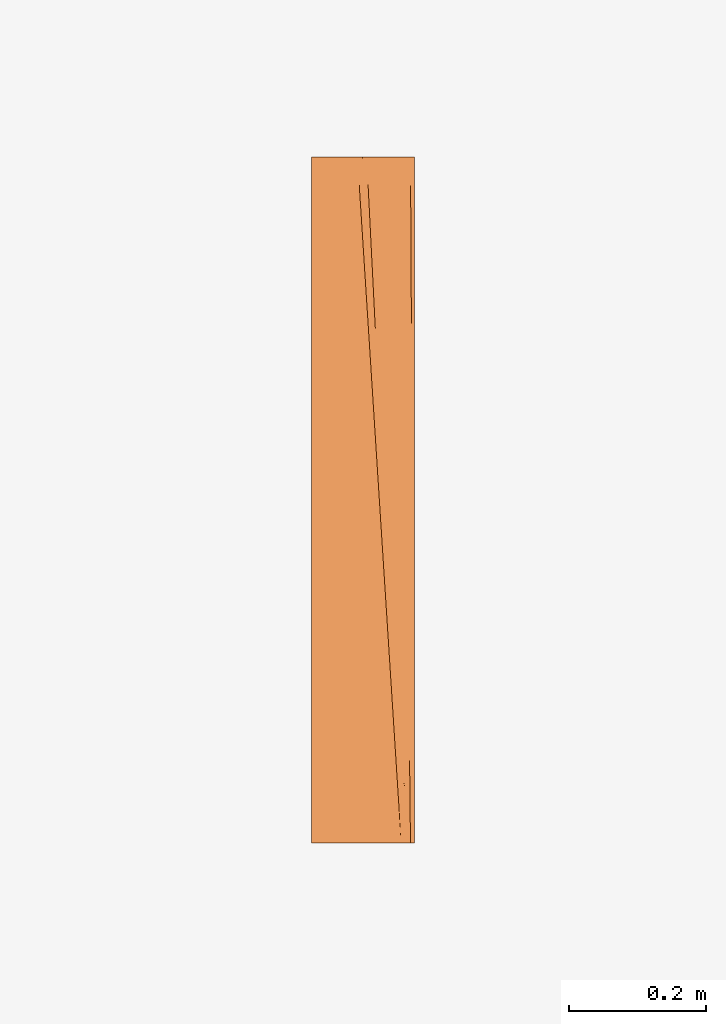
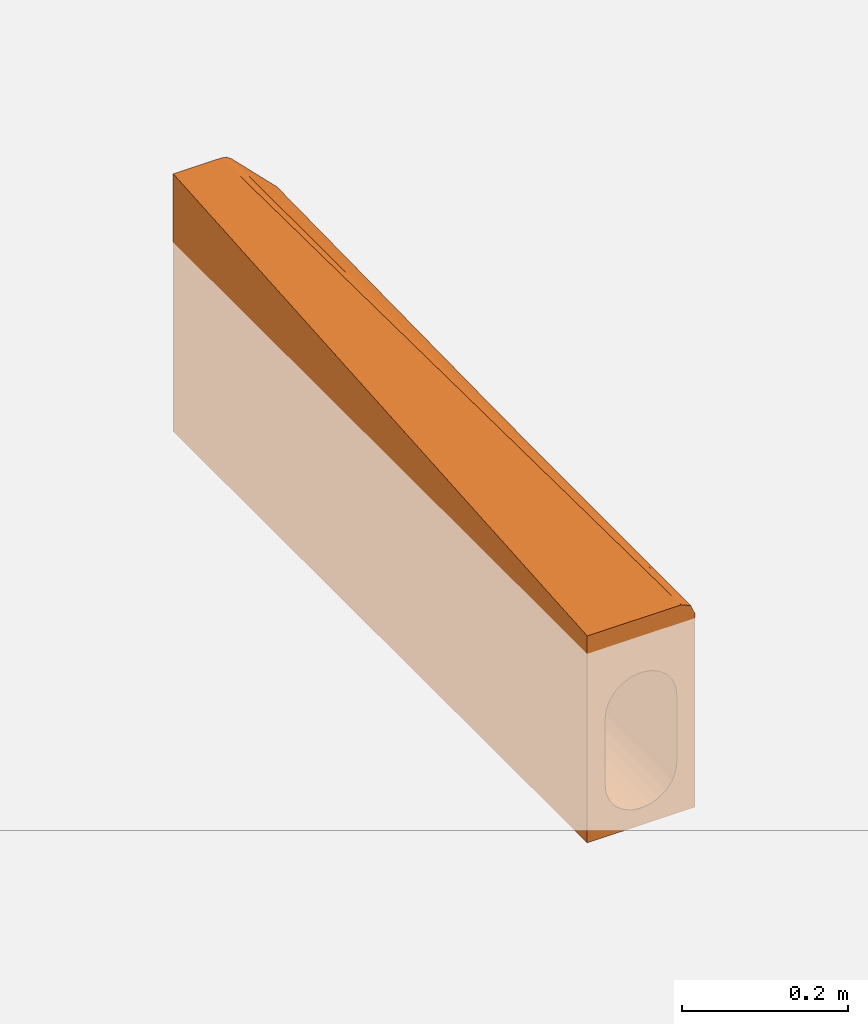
# One storey, part 2 of 2: 1 proxy.
"""IFC2X3 building model written with IfcOpenShell, lengths in millimetres."""

import ifcopenshell
import ifcopenshell.guid

model = None  # the IFC model being written
_history = None  # IfcOwnerHistory: only IFC2X3 demands one
_inside = {}  # id of a spatial element -> (the spatial element, [elements in it])
_under = {}  # id of a project, library or spatial element -> (it, [spatial elements below it])
_declared = {}  # id of a project -> (the project, [libraries it declares])
_typed = {}  # id of a type object -> (the type object, [elements of that type])
_made_of = {}  # id of a material, layer set ... -> (it, [elements and type objects made of it])


def new_model(schema):
    """Start an empty IFC model of exactly this schema.

    Asked for "IFC4X3", IfcOpenShell would pick the latest addendum, in which some entities
    have other attributes; the version numbers below select the first issue.
    IFC2X3 requires an IfcOwnerHistory on every rooted entity: one is made here for all.
    """
    global model, _history
    if schema == "IFC4X3":
        model = ifcopenshell.file(schema_version=(4, 3, 0, 0))
    else:
        model = ifcopenshell.file(schema=schema)
    _inside.clear()
    _under.clear()
    _declared.clear()
    _typed.clear()
    _made_of.clear()
    _history = None
    if model.schema == "IFC2X3":
        org = make("IfcOrganization", Name="unknown")
        user = make(
            "IfcPersonAndOrganization",
            ThePerson=make("IfcPerson", FamilyName="unknown"),
            TheOrganization=org,
        )
        app = make(
            "IfcApplication",
            ApplicationDeveloper=org,
            Version="unknown",
            ApplicationFullName="unknown",
            ApplicationIdentifier="unknown",
        )
        _history = make(
            "IfcOwnerHistory",
            OwningUser=user,
            OwningApplication=app,
            ChangeAction="ADDED",
            CreationDate=0,
        )
    return model


def make(cls, **values):
    """One entity of the class cls with the attributes given. An attribute that is None is left unset."""
    return model.create_entity(
        cls, **{name: value for name, value in values.items() if value is not None}
    )


def entity(cls, *values):
    """Any entity or typed value of the class cls, its attributes in the order of the schema. None: left unset."""
    e = model.create_entity(cls)
    for i, value in enumerate(values):
        if value is not None:
            e[i] = value
    return e


def rooted(cls, **values):
    """An entity with a GlobalId (a new one), such as an element, a storey or a relation."""
    return make(cls, GlobalId=ifcopenshell.guid.new(), OwnerHistory=_history, **values)


def si_unit(unit_type, name, prefix=None):
    """IfcSIUnit, for example si_unit("LENGTHUNIT", "METRE", prefix="MILLI")."""
    return make("IfcSIUnit", UnitType=unit_type, Prefix=prefix, Name=name)


def converted_unit(unit_type, name, factor, base, dimensions=None, offset=None):
    """IfcConversionBasedUnit, such as the inch: factor (a typed value) times the base unit."""
    return make(
        "IfcConversionBasedUnit"
        if offset is None
        else "IfcConversionBasedUnitWithOffset",
        ConversionOffset=offset,
        Dimensions=None
        if dimensions is None
        else entity("IfcDimensionalExponents", *dimensions),
        UnitType=unit_type,
        Name=name,
        ConversionFactor=make(
            "IfcMeasureWithUnit", ValueComponent=factor, UnitComponent=base
        ),
    )


def assignment(units):
    """IfcUnitAssignment: the units of a project."""
    return None if units is None else make("IfcUnitAssignment", Units=units)


def point(xyz):
    """IfcCartesianPoint."""
    return None if xyz is None else make("IfcCartesianPoint", Coordinates=xyz)


def direction(xyz):
    """IfcDirection."""
    return None if xyz is None else make("IfcDirection", DirectionRatios=xyz)


def frame(location, z_axis=None, x_axis=None):
    """IfcAxis2Placement3D, a coordinate frame: its origin and axes. An axis left out is left unset."""
    return make(
        "IfcAxis2Placement3D",
        Location=point(location),
        Axis=direction(z_axis),
        RefDirection=direction(x_axis),
    )


def origin():
    """The frame at (0, 0, 0) with its axes left unset."""
    return frame((0.0, 0.0, 0.0))


def place(relative_to, where):
    """IfcLocalPlacement: puts the frame where relative to a parent placement (None: the world)."""
    return make(
        "IfcLocalPlacement", PlacementRelTo=relative_to, RelativePlacement=where
    )


def context(
    kind, dimensions, precision=None, world=None, true_north=None, identifier=None
):
    """IfcGeometricRepresentationContext, for example the 3D "Model" context."""
    return make(
        "IfcGeometricRepresentationContext",
        ContextIdentifier=identifier,
        ContextType=kind,
        CoordinateSpaceDimension=dimensions,
        Precision=precision,
        WorldCoordinateSystem=world,
        TrueNorth=true_north,
    )


def subcontext(parent, identifier, kind, view, scale=None):
    """IfcGeometricRepresentationSubContext, for example "Body" below "Model"."""
    return make(
        "IfcGeometricRepresentationSubContext",
        ContextIdentifier=identifier,
        ContextType=kind,
        ParentContext=parent,
        TargetScale=scale,
        TargetView=view,
    )


def project(units=None, contexts=None):
    """IfcProject with its units and contexts."""
    return rooted(
        "IfcProject",
        Name="project",
        RepresentationContexts=contexts,
        UnitsInContext=assignment(units),
    )


def spatial(cls, under=None, at=None, **own):
    """A site, building, storey or space (cls), placed at a placement, below another one or the project."""
    s = rooted(cls, ObjectPlacement=at, **own)
    if under is not None:
        _under.setdefault(under.id(), (under, []))[1].append(s)
    return s


def faces_of(points, faces, orient=None, outer=None):
    """IfcFace entities. A face is a list of loops; a loop is a list of indices into points, from 0.

    orient and outer hold one flag for each loop. By default every Orientation is true, the
    first loop of a face is its IfcFaceOuterBound and the others are IfcFaceBound.
    """
    made = []
    for i, loops in enumerate(faces):
        bounds = []
        for j, loop in enumerate(loops):
            is_outer = j == 0 if outer is None else outer[i][j]
            bounds.append(
                make(
                    "IfcFaceOuterBound" if is_outer else "IfcFaceBound",
                    Bound=make("IfcPolyLoop", Polygon=[points[k] for k in loop]),
                    Orientation=True if orient is None else orient[i][j],
                )
            )
        made.append(make("IfcFace", Bounds=bounds))
    return made


def face_set(faces, orient=None, outer=None):
    """The faces of one IfcConnectedFaceSet. surface_model builds it on its shared points."""
    return ("IfcConnectedFaceSet", faces, orient, outer)


def surface_model(cls, points, shells):
    """IfcFaceBasedSurfaceModel or IfcShellBasedSurfaceModel (cls): surfaces that need not close."""
    shared = [point(p) for p in points]
    made = [make(c, CfsFaces=faces_of(shared, fs, o, b)) for c, fs, o, b in shells]
    if cls == "IfcFaceBasedSurfaceModel":
        return make(cls, FbsmFaces=made)
    return make(cls, SbsmBoundary=made)


def shape(context_of_items, identifier, shape_type, items):
    """IfcShapeRepresentation: the items that make up one representation, for example the "Body"."""
    return make(
        "IfcShapeRepresentation",
        ContextOfItems=context_of_items,
        RepresentationIdentifier=identifier,
        RepresentationType=shape_type,
        Items=items,
    )


def source(mapping_origin, context_of_items, identifier, shape_type, items):
    """IfcRepresentationMap: a shape defined once, which mapped items show again and again."""
    return make(
        "IfcRepresentationMap",
        MappingOrigin=mapping_origin,
        MappedRepresentation=shape(context_of_items, identifier, shape_type, items),
    )


def transform(
    local_origin,
    x_axis=None,
    y_axis=None,
    z_axis=None,
    scale=None,
    scale2=None,
    scale3=None,
    uniform=True,
):
    """IfcCartesianTransformationOperator3D, or its non-uniform kind. x_axis, y_axis, z_axis: its Axis1, 2, 3."""
    if uniform:
        return make(
            "IfcCartesianTransformationOperator3D",
            Axis1=direction(x_axis),
            Axis2=direction(y_axis),
            LocalOrigin=point(local_origin),
            Scale=scale,
            Axis3=direction(z_axis),
        )
    return make(
        "IfcCartesianTransformationOperator3DnonUniform",
        Axis1=direction(x_axis),
        Axis2=direction(y_axis),
        LocalOrigin=point(local_origin),
        Scale=scale,
        Axis3=direction(z_axis),
        Scale2=scale2,
        Scale3=scale3,
    )


def mapped(mapping_source, mapping_target):
    """IfcMappedItem: shows the shape of a source again, moved by a transform."""
    return make(
        "IfcMappedItem", MappingSource=mapping_source, MappingTarget=mapping_target
    )


def material(Name=None, Category=None):
    """IfcMaterial."""
    return make("IfcMaterial", Name=Name, Category=Category)


def made_of(thing, what):
    """Note that an element or type object is made of a material, layer set ...; save() writes the relation."""
    if what is not None:
        _made_of.setdefault(what.id(), (what, []))[1].append(thing)
    return thing


def element(
    cls,
    number,
    at=None,
    inside=None,
    cuts=None,
    type_object=None,
    material=None,
    context=None,
    identifier="Body",
    shape_type=None,
    held_by="IfcProductDefinitionShape",
    body=None,
    shapes=None,
    **own,
):
    """One element of the class cls, such as IfcWall. Its Tag is "e" and its number.

    at: its placement. inside: the storey or other place that contains it. cuts: it is an
    opening in that element (IfcRelVoidsElement). A single representation is given by context,
    identifier, shape_type and body (its items); several are given by shapes. held_by: the class
    of the entity that holds the representations. save() writes the other relations.
    """
    e = rooted(cls, Tag="e%d" % number, ObjectPlacement=at, **own)
    if body is not None:
        shapes = [shape(context, identifier, shape_type, body)]
    if shapes is not None:
        e.Representation = make(held_by, Representations=shapes)
    if inside is not None:
        _inside.setdefault(inside.id(), (inside, []))[1].append(e)
    if cuts is not None:
        rooted(
            "IfcRelVoidsElement", RelatingBuildingElement=cuts, RelatedOpeningElement=e
        )
    if type_object is not None:
        _typed.setdefault(type_object.id(), (type_object, []))[1].append(e)
    return made_of(e, material)


def aggregate(whole, parts):
    """IfcRelAggregates: a whole, such as a stair, and the parts it consists of."""
    return rooted("IfcRelAggregates", RelatingObject=whole, RelatedObjects=parts)


def save(model, path):
    """Write the relations noted so far, then the file.

    IfcRelAggregates (storeys below a building ...), IfcRelContainedInSpatialStructure (elements
    in a storey), IfcRelDefinesByType, IfcRelAssociatesMaterial and IfcRelDeclares: one each for
    every whole, place, type object, material and project.
    """
    for whole, parts in _under.values():
        aggregate(whole, parts)
    for where, things in _inside.values():
        rooted(
            "IfcRelContainedInSpatialStructure",
            RelatedElements=things,
            RelatingStructure=where,
        )
    for kind, things in _typed.values():
        rooted("IfcRelDefinesByType", RelatedObjects=things, RelatingType=kind)
    for what, things in _made_of.values():
        rooted("IfcRelAssociatesMaterial", RelatedObjects=things, RelatingMaterial=what)
    for by, libraries in _declared.values():
        rooted("IfcRelDeclares", RelatingContext=by, RelatedDefinitions=libraries)
    model.write(path)


model = new_model("IFC2X3")

# Units and contexts
model_context = context("Model", 3, precision=1e-06, world=origin(), true_north=direction((2.0, 6.12303176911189e-17, 1.0)))
context_of_model = context(None, 3, precision=1e-06, world=origin(), true_north=direction((2.0, 6.12303176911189e-17, 1.0)))
body_context = subcontext(model_context, "Body", "Model", "MODEL_VIEW")
ifc_project = project(units=[si_unit("LENGTHUNIT", "METRE", prefix="MILLI"), si_unit("AREAUNIT", "SQUARE_METRE", prefix="MILLI"), si_unit("VOLUMEUNIT", "CUBIC_METRE", prefix="MILLI"), converted_unit("PLANEANGLEUNIT", "DEGREE", entity("IfcRatioMeasure", 0.0174532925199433), si_unit("PLANEANGLEUNIT", "RADIAN"), dimensions=[0, 0, 0, 0, 0, 0, 0]), si_unit("TIMEUNIT", "SECOND")], contexts=[model_context, context_of_model])

# Site, building, storey
site_placement = place(None, origin())
site = spatial("IfcSite", under=ifc_project, at=site_placement, Name="Default", CompositionType="ELEMENT")
building_placement = place(site_placement, origin())
building = spatial("IfcBuilding", under=site, at=building_placement, CompositionType="ELEMENT")
storey_placement = place(building_placement, origin())
storey = spatial("IfcBuildingStorey", under=building, at=storey_placement, Name="Level 1", CompositionType="ELEMENT", Elevation=0.0)

# Proxy
ifc_material = material(Name="ACO Polymer Concrete.")
shared_shape = source(origin(), body_context, "Body", "SurfaceModel", [
    surface_model("IfcFaceBasedSurfaceModel", [(75.0, 1000.0, -280.0), (-75.0, 1000.0, -280.0), (-75.0, 1000.0, 100.0), (-7.87005768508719, 1000.0, 100.0), (-0.599072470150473, 1000.0, 98.5537111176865), (5.56497115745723, 1000.0, 94.4350288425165), (69.4350288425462, 1000.0, 30.5649711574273), (73.5537111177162, 1000.0, 24.4009275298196), (75.0, 1000.0, 17.1299423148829), (-50.0, 1000.0, -204.999701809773), (-48.2962913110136, 1000.0, -217.940654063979), (-43.3012701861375, 1000.0, -229.999701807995), (-35.3553390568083, 1000.0, -240.355040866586), (-25.0, 1000.0, -248.300971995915), (-12.9409522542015, 1000.0, -253.295993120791), (0.0, 1000.0, -254.999701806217), (12.9409522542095, 1000.0, -253.295993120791), (25.0, 1000.0, -248.300971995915), (35.3553390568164, 1000.0, -240.355040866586), (43.3012701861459, 1000.0, -229.999701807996), (48.2962913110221, 1000.0, -217.940654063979), (50.0, 1000.0, -204.999701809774), (50.0, 1000.0, -30.0), (48.2962913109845, 1000.0, -17.0590477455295), (43.3012701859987, 1000.0, -5.0), (35.3553390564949, 1000.0, 5.35533905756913), (25.0, 1000.0, 13.3012701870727), (12.9409522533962, 1000.0, 18.2962913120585), (-1.09325165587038e-09, 1000.0, 20.0), (-12.9409522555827, 1000.0, 18.2962913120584), (-25.0, 1000.0, 13.3012701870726), (-35.3553390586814, 1000.0, 5.35533905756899), (-43.3012701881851, 1000.0, -5.0), (-48.2962913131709, 1000.0, -17.0590477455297), (-50.0, 1000.0, -30.0), (75.0, 0.0, -280.0), (75.0, 0.0, 6.0), (69.4350288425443, 0.0, 19.4350288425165), (56.0, 0.0, 25.0), (-75.0, 0.0, 25.0), (-75.0, 0.0, -280.0), (50.0, 0.0, -204.999701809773), (48.2962913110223, 0.0, -217.940654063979), (43.3012701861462, 0.0, -229.999701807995), (35.355339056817, 0.0, -240.355040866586), (25.0, 0.0, -248.300971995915), (12.9409522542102, 0.0, -253.295993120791), (0.0, 0.0, -254.999701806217), (-12.9409522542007, 0.0, -253.295993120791), (-25.0, 0.0, -248.300971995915), (-35.3553390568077, 0.0, -240.355040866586), (-43.3012701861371, 0.0, -229.999701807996), (-48.2962913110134, 0.0, -217.94065406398), (-50.0, 0.0, -204.999701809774), (-50.0, 0.0, -104.999701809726), (-48.2962913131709, 0.0, -92.058749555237), (-43.3012701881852, 0.0, -79.9997018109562), (-35.3553390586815, 0.0, -69.6443627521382), (-25.0, 0.0, -61.6984316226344), (-12.9409522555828, 0.0, -56.7034104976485), (-1.09333836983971e-09, 0.0, -54.9997018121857), (12.9409522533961, 0.0, -56.7034104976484), (25.0, 0.0, -61.6984316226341), (35.355339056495, 0.0, -69.6443627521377), (43.3012701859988, 0.0, -79.9997018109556), (48.2962913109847, 0.0, -92.0587495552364), (50.0, 0.0, -104.999701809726), (34.2640899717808, 430.96853427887, 54.924313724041), (29.0220929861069, 422.387408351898, 56.6790576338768), (36.4376809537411, 387.871673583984, 51.931881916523), (8.09745666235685, 750.000005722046, 81.2500006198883), (19.2653484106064, 728.355905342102, 75.573416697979), (17.3081504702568, 767.162257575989, 78.2679333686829), (49.4792291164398, 129.290554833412, 33.9772933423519), (44.9896049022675, 172.38740644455, 37.9290552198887), (47.7422030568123, 129.290554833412, 34.6967920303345), (51.6528200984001, 86.1937032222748, 30.9848615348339), (50.4948012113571, 86.1937032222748, 31.4645288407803), (25.5697260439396, 603.355940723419, 66.8940364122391), (16.0812143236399, 625.000004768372, 71.8750005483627), (18.0771533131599, 593.749986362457, 69.5312482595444), (21.222544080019, 689.549625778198, 72.8789000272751), (14.0852741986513, 656.249986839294, 74.2187482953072), (23.3961350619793, 646.452765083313, 69.8864682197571), (10.0933962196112, 718.750023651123, 78.9062483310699), (-5.11745937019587, 956.903146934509, 96.7677398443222), (7.73856232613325, 956.903146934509, 91.4426015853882), (9.4793643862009, 922.387375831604, 89.0460000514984), (-3.87817897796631, 937.499970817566, 95.3124961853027), (26.5435310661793, 461.193687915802, 59.58952678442), (42.2370067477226, 215.484267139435, 41.1613184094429), (47.3056381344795, 172.38740644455, 36.9697251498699), (45.1320471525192, 215.484267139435, 39.962154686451), (13.3937579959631, 844.774816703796, 83.6569667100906), (2.10963884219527, 843.750024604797, 88.2812484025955), (4.10557811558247, 812.499969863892, 85.9374961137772), (-1.88223984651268, 906.249988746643, 92.9687529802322), (0.113699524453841, 875.00000667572, 90.6250006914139), (11.436561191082, 883.5810962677, 86.3514788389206), (42.9584561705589, 258.581109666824, 42.954586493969), (36.731810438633, 301.67797036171, 47.6258493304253), (39.4844085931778, 258.581109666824, 44.3935838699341), (53.8264110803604, 43.0968516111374, 27.9924319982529), (40.7848651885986, 301.67797036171, 45.947018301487), (33.9792122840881, 344.774812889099, 50.8581102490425), (53.2473993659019, 43.0968516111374, 28.2322633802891), (31.5006526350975, 383.581128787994, 53.7685839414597), (38.6112742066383, 344.774812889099, 48.939450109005), (22.0690312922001, 531.24998588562, 64.8437482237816), (27.7433170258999, 560.259080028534, 63.9016046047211), (20.0730934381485, 562.500004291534, 67.1875005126), (32.0904989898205, 474.065358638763, 57.9167409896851), (29.9169080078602, 517.162219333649, 60.9091727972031), (24.0649714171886, 500.000003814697, 62.5000004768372), (12.0893352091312, 687.499968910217, 76.5624960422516), (6.10151767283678, 781.249987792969, 83.5937529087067), (15.3509548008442, 805.968537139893, 80.9624454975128), (61.8215126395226, 302.134337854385, 30.3249181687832), (62.583025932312, 214.560595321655, 28.6750756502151), (68.9630098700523, 233.812272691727, 20.8863568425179), (68.2661774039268, 108.869871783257, 21.5493818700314), (60.4382031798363, 84.1356438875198, 27.8109341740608), (74.3199003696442, 122.2108543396, 9.00210597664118), (73.9643306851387, 186.105428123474, 10.5716748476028), (73.6087564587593, 250.000001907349, 12.1412431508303), (48.2196584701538, 678.570208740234, 48.2019678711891), (39.7942461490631, 587.165686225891, 54.9016906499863), (54.4426479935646, 542.495011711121, 40.4225508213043), (56.8280174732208, 168.385706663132, 32.4417130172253), (46.7544408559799, 183.316263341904, 37.7285700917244), (49.8362930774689, 122.210845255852, 33.4857127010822), (53.4818100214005, 250.309012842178, 36.851500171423), (37.5000002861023, 1000.00000762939, 62.5000004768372), (36.4102503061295, 923.534907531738, 62.7301145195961), (45.1350357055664, 916.741499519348, 53.9194649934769), (46.7623346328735, 460.161556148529, 46.5972375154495), (70.1151288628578, 877.789153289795, 27.5628661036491), (56.9950130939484, 1000.00000762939, 43.0049831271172), (67.4202215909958, 410.536678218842, 24.1098383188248), (60.4524147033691, 406.223714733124, 32.7150021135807), (67.8077842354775, 340.080077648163, 23.0661906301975), (71.5063729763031, 627.789151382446, 21.4216212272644), (63.3400791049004, 584.206491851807, 30.9201875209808), (72.217512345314, 500.000003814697, 18.282485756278), (52.1351444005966, 331.999284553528, 39.7131873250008), (44.5550020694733, 1000.00000762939, 55.4449986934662), (50.7750075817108, 1000.00000762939, 49.2249931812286), (42.3838273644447, 847.069880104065, 55.9140698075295), (34.080509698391, 856.429337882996, 64.2313673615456), (33.343904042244, 729.444283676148, 63.1326426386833), (41.1380730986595, 744.546050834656, 55.9579034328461), (25.720193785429, 865.788795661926, 72.4572551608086), (30.4449985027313, 1000.00000762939, 69.5550022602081), (18.0049852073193, 1000.00000762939, 81.9950132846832), (12.0100204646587, 872.210860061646, 85.5619830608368), (18.4550701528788, 744.421712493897, 76.6889418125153), (59.7549327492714, 717.074253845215, 36.4596840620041), (57.6675964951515, 793.259792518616, 39.6055449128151), (48.533774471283, 763.714066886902, 48.8031121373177), (57.1529840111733, 867.332524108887, 41.0593124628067), (70.7952290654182, 755.578298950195, 24.5607601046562), (24.9001198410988, 616.632564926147, 67.8158960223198), (64.4096949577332, 482.764536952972, 28.6456624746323), (31.3451706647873, 488.843381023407, 58.9428547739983), (37.5088773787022, 366.632526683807, 50.4571399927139), (43.672584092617, 244.421690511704, 41.9714252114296), (72.9131366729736, 375.000002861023, 15.2118644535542), (50.4752166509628, 842.185585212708, 47.6663673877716), (75.0000005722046, 431.856815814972, 10.806540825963), (72.6474506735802, 422.742728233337, 16.3846625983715), (75.0000005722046, 388.671116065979, 10.325886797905), (70.8262727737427, 750.000005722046, 24.4237294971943), (75.0000005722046, 729.599506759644, 14.1204010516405), (75.0000005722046, 768.228180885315, 14.5503348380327), (75.0000005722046, 129.557044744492, 7.44196262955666), (74.0386902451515, 172.742726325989, 10.2434199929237), (74.2790189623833, 129.557044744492, 9.18256484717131), (75.0000005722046, 86.3713631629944, 6.96130803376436), (74.519347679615, 86.3713631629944, 8.12171026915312), (75.0000005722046, 604.599542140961, 12.7291580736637), (71.5218925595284, 625.000004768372, 21.3531070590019), (71.6957963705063, 593.749986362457, 20.5854508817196), (75.0000005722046, 690.970905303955, 13.6904661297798), (71.3479887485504, 656.249986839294, 22.1207632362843), (75.0000005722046, 647.785241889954, 13.2098121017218), (71.0001765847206, 718.750023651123, 23.656073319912), (69.6753573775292, 956.814344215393, 29.5041152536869), (75.0000005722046, 956.814344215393, 16.6492880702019), (75.0000005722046, 922.742732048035, 16.270073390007), (69.7828408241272, 937.499970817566, 29.0296597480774), (72.4324837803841, 461.371366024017, 17.333574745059), (73.7983660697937, 215.928407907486, 11.3042745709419), (75.0000005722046, 172.742726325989, 7.92261665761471), (75.0000005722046, 215.928407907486, 8.40327068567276), (75.0000005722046, 845.485456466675, 15.4102046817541), (70.3045567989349, 843.750024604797, 26.7266934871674), (70.4784606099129, 812.499969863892, 25.959039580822), (69.9567446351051, 906.249988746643, 28.262005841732), (70.1306484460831, 875.00000667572, 27.4943496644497), (75.0000005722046, 884.114057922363, 15.8401384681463), (75.0000005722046, 259.114089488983, 8.88392471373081), (73.3177086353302, 302.29977107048, 13.4259848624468), (73.558037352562, 259.114089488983, 12.3651302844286), (75.0000005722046, 43.1856815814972, 6.48065400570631), (75.0000005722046, 302.29977107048, 9.36457874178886), (73.0773844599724, 345.485452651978, 14.4868405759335), (74.7596718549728, 43.1856815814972, 7.06085512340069), (72.8624175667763, 384.114090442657, 15.4357515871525), (75.0000005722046, 345.485452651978, 9.84523276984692), (72.0436085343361, 531.24998588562, 19.0501407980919), (75.0000005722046, 561.413842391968, 12.2485040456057), (71.8697047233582, 562.500004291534, 19.8177969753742), (75.0000005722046, 475.042479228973, 11.2871959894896), (75.0000005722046, 518.228178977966, 11.7678500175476), (71.1740803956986, 687.499968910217, 22.8884171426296), (70.6523644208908, 781.249987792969, 25.1913834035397), (75.0000005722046, 806.856782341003, 14.9802697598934), (19.1341722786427, 887.323164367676, 7.74324670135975), (30.4380721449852, 847.735391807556, -1.75213460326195), (30.4380721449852, 152.264615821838, -53.9122343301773), (-46.1939781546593, 156.638567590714, -74.1176870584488), (39.6676686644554, 123.934849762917, -65.2665558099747), (-50.0000003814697, 250.00003824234, -86.2497771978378), (-49.1644817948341, 187.500001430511, -81.8348486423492), (-47.3026132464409, 253.025634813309, -69.8221462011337), (19.1341745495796, 500.000003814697, -21.3058761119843), (16.6207503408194, 627.426237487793, -10.7862624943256), (2.87371744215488, 527.196381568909, -15.5427808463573), (39.6676686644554, 876.065130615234, -8.85700616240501), (-46.1939781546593, 836.991934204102, -23.0913866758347), (-47.4523134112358, 742.909232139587, -33.5248954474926), (-39.6676686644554, 727.381909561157, -20.0082036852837), (6.52631176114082, 847.735391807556, 8.15244172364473), (19.1341745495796, 754.852398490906, -2.19201906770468), (49.2025018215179, 187.500019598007, -82.0426575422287), (46.6559049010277, 283.665134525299, -65.7463957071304), (46.1939781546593, 183.942569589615, -72.0698923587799), (50.0000003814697, 750.000005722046, -48.7499267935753), (49.2025018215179, 812.499969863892, -35.167845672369), (49.1978827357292, 708.366209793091, -42.9523337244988), (-47.5340898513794, 641.34210319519, -41.3908420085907), (-41.127036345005, 550.41883764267, -35.2831411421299), (29.109564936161, 383.716585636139, -35.5684821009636), (36.823227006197, 434.071033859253, -38.6206940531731), (32.4172073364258, 546.009986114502, -25.9817466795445), (-19.1341700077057, 181.383786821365, -45.2019965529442), (-30.4380698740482, 130.820248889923, -55.5205527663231), (39.6676686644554, 322.786365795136, -50.3527541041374), (19.1341722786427, 112.676843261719, -50.3549977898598), (6.52631176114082, 152.264615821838, -44.0076563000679), (-6.52630778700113, 876.065130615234, 10.2771672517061), (9.18249274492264, 372.573770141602, -27.9071923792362), (-16.3345918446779, 409.462761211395, -27.0335697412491), (-5.410855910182, 439.313192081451, -22.3449773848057), (-14.743454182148, 508.801138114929, -19.0628852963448), (35.7944244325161, 239.92892332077, -52.0943719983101), (41.8289420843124, 223.360603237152, -60.8553924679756), (-39.6676686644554, 878.895917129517, -8.64470023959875), (-30.4380698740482, 868.45854549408, -0.19789947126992), (-10.2082193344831, 776.639368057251, 2.19485277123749), (-39.6676686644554, 118.807401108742, -65.6511117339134), (-19.1341677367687, 816.057456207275, 2.39834078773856), (48.0415034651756, 898.670727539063, -23.7427617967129), (46.1939781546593, 816.057456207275, -24.6614670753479), (48.5789297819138, 500.000003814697, -55.6639942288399), (42.5560234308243, 500.000003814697, -41.2513247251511), (47.8606006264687, 376.185722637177, -62.3165042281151), (-6.52630778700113, 123.934849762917, -46.1323812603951), (6.87804640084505, 702.475435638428, -2.78958745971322), (19.1341745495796, 245.147572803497, -40.4197303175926), (-50.0000003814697, 125.00001912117, -95.624740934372), (-28.9439818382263, 709.608575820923, -11.0086178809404), (-18.3575220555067, 685.684963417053, -7.06545774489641), (-30.4380653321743, 482.916344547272, -29.1134482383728), (-25.4397921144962, 591.522942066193, -17.5912965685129), (-34.5865970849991, 612.824948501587, -22.9302954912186), (-50.0000003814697, 749.999933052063, -48.7499267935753), (-49.1788477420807, 812.499969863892, -35.0379821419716), (-50.0000003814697, 875.00000667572, -39.3749630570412), (48.0415034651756, 101.32928917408, -83.5431291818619), (50.0000003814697, 250.000020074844, -86.2497771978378), (50.0000003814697, 125.000010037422, -95.624740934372), (-28.9283078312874, 293.008677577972, -42.2423661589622), (-39.6676686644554, 256.530380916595, -55.3219275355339), (27.5514319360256, 665.078663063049, -13.3946811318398), (-18.313594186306, 311.069057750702, -35.1442211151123), (46.6559049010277, 716.334909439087, -33.2962961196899), (47.8606006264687, 623.81432132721, -43.7444319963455), (49.1978827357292, 291.633779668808, -74.2071438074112), (50.0000003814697, 375.000039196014, -76.8748134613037), (-49.246707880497, 912.052977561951, -27.9495067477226), (-43.5990920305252, 356.909101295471, -53.7547130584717), (-49.2463354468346, 87.9723646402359, -89.7532061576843), (42.3273446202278, 766.78422832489, -20.8754041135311), (36.488229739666, 776.639368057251, -12.5670529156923), (28.5993921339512, 266.815599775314, -43.9755043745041), (8.06662585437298, 262.125860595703, -35.995334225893), (-6.52630494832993, 316.819397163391, -31.6660972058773), (-11.0179514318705, 227.414752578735, -39.1727224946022), (-1.57170525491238, 220.37711892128, -38.4961922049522), (-39.0153193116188, 405.66800737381, -43.304851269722), (-48.6973182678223, 469.792363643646, -58.4264936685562), (-50.0000003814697, 374.999966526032, -76.8748134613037), (-47.4037971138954, 354.974517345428, -62.4745205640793), (-44.74779099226, 453.44434261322, -48.6837743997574), (-24.8584458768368, 394.420728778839, -32.0355763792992), (-32.561021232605, 386.385318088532, -38.0764867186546), (50.0000003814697, 875.00000667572, -39.3749630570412), (44.3092276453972, 635.758432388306, -34.151387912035), (50.0000003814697, 625.000004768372, -58.1248859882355), (50.0000003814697, 500.000040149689, -67.4998497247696), (39.6676686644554, 677.213678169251, -23.7708101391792), (44.3092276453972, 364.241647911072, -54.5150636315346), (19.6770352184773, 362.381950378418, -31.8558044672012), (-50.0000003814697, 624.999932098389, -58.1248950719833), (-50.0000003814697, 499.999931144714, -67.4998588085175), (-45.8144273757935, 552.529064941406, -43.5342476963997), (-6.52630494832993, 677.213678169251, -4.63663672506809), (-6.4907562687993, 568.95593290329, -12.7512656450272), (-22.8513599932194, 487.083205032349, -23.9959712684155)], [face_set([[[0, 1, 2, 3, 4, 5, 6, 7, 8], [9, 10, 11, 12, 13, 14, 15, 16, 17, 18, 19, 20, 21, 22, 23, 24, 25, 26, 27, 28, 29, 30, 31, 32, 33, 34]], [[35, 36, 37, 38, 39, 40], [41, 42, 43, 44, 45, 46, 47, 48, 49, 50, 51, 52, 53, 54, 55, 56, 57, 58, 59, 60, 61, 62, 63, 64, 65, 66]], [[1, 0, 35, 40]], [[2, 1, 40, 39]], [[3, 2, 39, 38]], [[0, 8, 36, 35]], [[67, 68, 69]], [[70, 71, 72]], [[73, 74, 75]], [[76, 75, 77]], [[78, 79, 80]], [[81, 82, 83]], [[71, 70, 84]], [[4, 85, 86]], [[87, 86, 88]], [[89, 68, 67]], [[90, 91, 92]], [[93, 94, 95]], [[96, 97, 98]], [[87, 88, 96]], [[97, 93, 98]], [[84, 81, 71]], [[99, 100, 101]], [[79, 78, 83]], [[96, 98, 87]], [[93, 97, 94]], [[4, 3, 85]], [[77, 102, 76]], [[101, 92, 99]], [[103, 104, 100]], [[38, 102, 105]], [[77, 105, 102]], [[106, 69, 68]], [[104, 107, 106]], [[88, 86, 85]], [[86, 5, 4]], [[108, 109, 110]], [[100, 99, 103]], [[103, 107, 104]], [[92, 101, 90]], [[90, 74, 91]], [[75, 76, 73]], [[73, 91, 74]], [[67, 111, 89]], [[111, 112, 113]], [[84, 114, 81]], [[82, 81, 114]], [[82, 79, 83]], [[115, 70, 72]], [[115, 116, 95]], [[106, 107, 69]], [[110, 109, 80]], [[108, 113, 112]], [[111, 113, 89]], [[116, 115, 72]], [[116, 93, 95]], [[109, 108, 112]], [[78, 80, 109]], [[117, 118, 119]], [[37, 120, 121]], [[119, 120, 122]], [[119, 123, 124]], [[125, 126, 127]], [[128, 129, 130]], [[129, 128, 131]], [[132, 133, 134]], [[36, 122, 120]], [[127, 126, 135]], [[128, 120, 118]], [[136, 6, 137]], [[138, 139, 140]], [[141, 142, 143]], [[139, 135, 144]], [[145, 132, 134, 146]], [[133, 147, 134]], [[148, 149, 150]], [[126, 125, 149]], [[151, 152, 153]], [[153, 154, 151]], [[149, 151, 155]], [[156, 157, 158]], [[159, 160, 136]], [[149, 161, 126]], [[150, 125, 158]], [[156, 142, 141]], [[127, 135, 139]], [[143, 142, 162]], [[141, 160, 156]], [[125, 142, 156]], [[157, 160, 159]], [[142, 125, 127]], [[126, 163, 135]], [[135, 164, 144]], [[161, 149, 155]], [[128, 118, 131]], [[164, 135, 163]], [[164, 165, 144]], [[161, 163, 126]], [[162, 127, 139]], [[127, 162, 142]], [[131, 118, 117]], [[117, 140, 139]], [[143, 162, 138]], [[154, 155, 151]], [[5, 154, 153]], [[128, 121, 120]], [[123, 119, 122]], [[121, 128, 130]], [[36, 120, 37]], [[130, 38, 121]], [[37, 121, 38]], [[144, 165, 131]], [[129, 131, 165]], [[119, 118, 120]], [[124, 166, 140]], [[117, 144, 131]], [[119, 124, 140]], [[139, 144, 117]], [[140, 117, 119]], [[138, 140, 166]], [[143, 138, 166]], [[139, 138, 162]], [[147, 133, 148]], [[152, 151, 133]], [[132, 152, 133]], [[167, 134, 147]], [[167, 159, 134]], [[151, 149, 148]], [[133, 151, 148]], [[158, 167, 147]], [[157, 159, 167]], [[147, 148, 150]], [[156, 158, 125]], [[158, 157, 167]], [[160, 157, 156]], [[150, 158, 147]], [[149, 125, 150]], [[146, 134, 159]], [[136, 137, 159]], [[159, 137, 146]], [[168, 169, 170]], [[171, 172, 173]], [[174, 175, 176]], [[177, 176, 178]], [[179, 180, 181]], [[182, 183, 184]], [[172, 171, 185]], [[7, 186, 187]], [[188, 187, 189]], [[190, 169, 168]], [[191, 192, 193]], [[194, 195, 196]], [[197, 198, 199]], [[188, 189, 197]], [[198, 194, 199]], [[185, 182, 172]], [[200, 201, 202]], [[180, 179, 184]], [[197, 199, 188]], [[194, 198, 195]], [[7, 6, 186]], [[178, 203, 177]], [[202, 193, 200]], [[204, 205, 201]], [[36, 203, 206]], [[178, 206, 203]], [[207, 170, 169]], [[205, 208, 207]], [[189, 187, 186]], [[187, 8, 7]], [[209, 210, 211]], [[201, 200, 204]], [[204, 208, 205]], [[193, 202, 191]], [[191, 175, 192]], [[176, 177, 174]], [[174, 192, 175]], [[168, 212, 190]], [[212, 213, 143]], [[185, 214, 182]], [[183, 182, 214]], [[183, 180, 184]], [[215, 171, 173]], [[215, 216, 196]], [[207, 208, 170]], [[211, 210, 181]], [[209, 143, 213]], [[212, 143, 190]], [[216, 215, 173]], [[216, 194, 196]], [[210, 209, 213]], [[179, 181, 210]], [[51, 52, 10, 11]], [[50, 51, 11, 12]], [[48, 49, 13, 14]], [[49, 50, 12, 13]], [[47, 48, 14, 15]], [[52, 53, 9, 10]], [[45, 46, 16, 17]], [[44, 45, 17, 18]], [[42, 43, 19, 20]], [[43, 44, 18, 19]], [[41, 42, 20, 21]], [[15, 16, 46, 47]], [[53, 54, 34, 9]], [[217, 218, 26]], [[62, 63, 219]], [[56, 220, 55]], [[26, 218, 25]], [[219, 63, 221]], [[222, 223, 224]], [[225, 226, 227]], [[228, 24, 25]], [[229, 230, 231]], [[232, 233, 217]], [[234, 235, 236]], [[237, 238, 239]], [[240, 241, 231]], [[228, 25, 218]], [[242, 243, 244]], [[217, 26, 27]], [[245, 246, 58]], [[247, 243, 242]], [[61, 248, 249]], [[27, 28, 232]], [[61, 249, 60]], [[229, 32, 33]], [[232, 28, 250]], [[225, 227, 251]], [[252, 253, 254]], [[255, 221, 256]], [[257, 258, 31]], [[259, 232, 250]], [[56, 260, 220]], [[30, 258, 261]], [[57, 260, 56]], [[262, 24, 263]], [[264, 265, 266]], [[231, 258, 257]], [[261, 29, 30]], [[60, 267, 59]], [[268, 233, 232]], [[269, 248, 219]], [[223, 222, 270]], [[245, 58, 59]], [[261, 271, 272]], [[273, 274, 275]], [[276, 277, 278]], [[61, 62, 248]], [[267, 60, 249]], [[65, 279, 64]], [[280, 234, 281]], [[282, 283, 246]], [[284, 226, 225]], [[238, 262, 263]], [[258, 30, 31]], [[261, 258, 271]], [[285, 282, 245]], [[58, 246, 57]], [[239, 286, 287]], [[66, 281, 279]], [[281, 234, 279]], [[266, 288, 289]], [[290, 278, 277]], [[229, 277, 230]], [[283, 291, 224]], [[220, 223, 292]], [[28, 29, 250]], [[232, 259, 268]], [[284, 218, 233]], [[293, 228, 294]], [[63, 64, 221]], [[255, 242, 295]], [[296, 251, 297]], [[298, 267, 299]], [[241, 300, 273]], [[301, 302, 303]], [[240, 230, 276]], [[304, 301, 303]], [[31, 32, 257]], [[271, 258, 231]], [[275, 231, 241]], [[254, 272, 274]], [[282, 246, 245]], [[260, 246, 283]], [[245, 298, 285]], [[305, 273, 306]], [[34, 278, 290]], [[307, 238, 237]], [[22, 23, 262]], [[287, 286, 308]], [[287, 309, 239]], [[234, 288, 235]], [[264, 310, 309]], [[29, 261, 250]], [[55, 292, 54]], [[259, 250, 261]], [[294, 228, 218]], [[263, 24, 228]], [[64, 236, 221]], [[256, 221, 236]], [[299, 267, 249]], [[245, 59, 267]], [[32, 229, 257]], [[231, 257, 229]], [[246, 260, 57]], [[220, 260, 283]], [[232, 217, 27]], [[218, 217, 233]], [[219, 248, 62]], [[249, 248, 269]], [[244, 265, 311]], [[247, 256, 312]], [[292, 223, 270]], [[224, 223, 220]], [[226, 284, 233]], [[244, 225, 242]], [[313, 225, 251]], [[219, 295, 269]], [[314, 315, 301]], [[290, 229, 33]], [[307, 22, 262]], [[286, 239, 238]], [[286, 238, 263]], [[293, 286, 263]], [[287, 264, 309]], [[309, 237, 239]], [[286, 293, 308]], [[311, 265, 308]], [[265, 287, 308]], [[288, 234, 280]], [[279, 234, 236]], [[310, 264, 289]], [[288, 266, 235]], [[288, 280, 289]], [[312, 235, 266]], [[235, 312, 256]], [[266, 265, 312]], [[243, 312, 265]], [[291, 304, 303]], [[304, 291, 300]], [[307, 262, 238]], [[24, 262, 23]], [[64, 279, 236]], [[279, 65, 66]], [[283, 224, 220]], [[241, 240, 316]], [[276, 230, 277]], [[231, 230, 240]], [[227, 268, 317]], [[226, 233, 268]], [[318, 227, 317]], [[296, 313, 251]], [[317, 259, 272]], [[305, 282, 285]], [[253, 251, 227]], [[297, 299, 296]], [[227, 226, 268]], [[284, 225, 244]], [[244, 311, 284]], [[284, 311, 294]], [[54, 292, 270]], [[220, 292, 55]], [[229, 290, 277]], [[34, 290, 33]], [[300, 241, 304]], [[306, 283, 282]], [[241, 316, 304]], [[314, 301, 240]], [[301, 304, 316]], [[302, 222, 303]], [[301, 315, 302]], [[222, 224, 303]], [[301, 316, 240]], [[274, 272, 271]], [[318, 272, 254]], [[275, 274, 271]], [[274, 273, 319]], [[231, 275, 271]], [[273, 275, 241]], [[224, 291, 303]], [[283, 300, 291]], [[240, 276, 314]], [[319, 252, 254]], [[305, 319, 273]], [[305, 285, 252]], [[306, 273, 300]], [[285, 297, 252]], [[253, 252, 297]], [[251, 253, 297]], [[318, 253, 227]], [[283, 306, 300]], [[282, 305, 306]], [[252, 319, 305]], [[274, 319, 254]], [[265, 264, 287]], [[289, 264, 266]], [[272, 259, 261]], [[259, 317, 268]], [[284, 294, 218]], [[293, 294, 311]], [[293, 311, 308]], [[228, 293, 263]], [[235, 256, 236]], [[242, 255, 247]], [[299, 249, 296]], [[298, 299, 297]], [[249, 269, 296]], [[313, 296, 269]], [[285, 298, 297]], [[267, 298, 245]], [[312, 243, 247]], [[244, 243, 265]], [[255, 256, 247]], [[313, 295, 242]], [[295, 219, 255]], [[221, 255, 219]], [[272, 318, 317]], [[253, 318, 254]], [[295, 313, 269]], [[225, 313, 242]], [[21, 22, 66, 41]]])]),
])
proxy_placement = place(storey_placement, frame((-13330.2750822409, -1412.72179195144, 0.0)))
element("IfcBuildingElementProxy", 1, at=proxy_placement, inside=storey, material=ifc_material, Name="Civil-Drainage-Channel-ACO-KerbDrain-SP380:4244 - RH drop kerb - 1000mm LG:4244 - RH drop kerb - 1000mm LG", ObjectType="4244 - RH drop kerb - 1000mm LG", CompositionType="ELEMENT", context=body_context, shape_type="MappedRepresentation", body=[
    mapped(shared_shape, transform((0.0, 0.0, 0.0), scale=1.0)),
])

save(model, "model.ifc")
